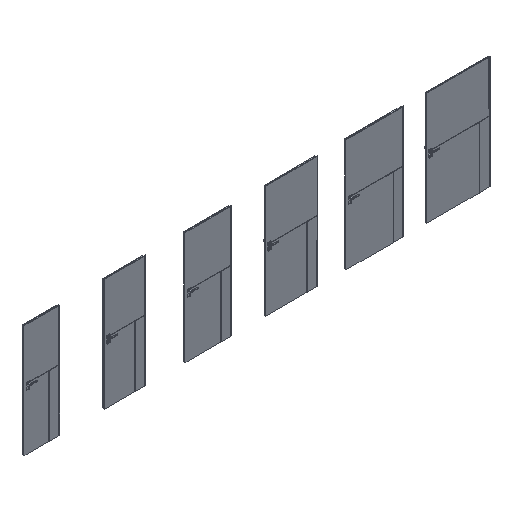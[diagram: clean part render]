
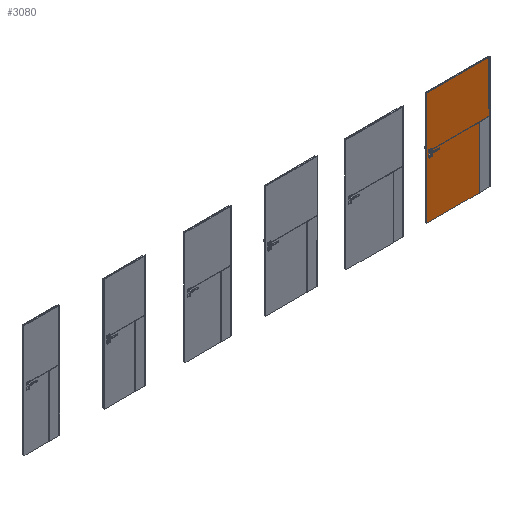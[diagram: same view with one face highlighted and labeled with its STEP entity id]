
A CAD part, isometric view. The second image highlights one B-rep face of the part: STEP entity #3080.
In plain terms, the highlighted planar face has unit normal (0, -1, 0).
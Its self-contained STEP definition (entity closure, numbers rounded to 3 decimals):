
#3080=ADVANCED_FACE('',(#5036),#4076,.F.);
#4076=PLANE('',#22065);
#5036=FACE_OUTER_BOUND('',#6344,.T.);
#6344=EDGE_LOOP('',(#10199,#10200,#10201,#10202,#10203,#10204,#10205,#10206));
#10199=ORIENTED_EDGE('',*,*,#16160,.T.);
#10200=ORIENTED_EDGE('',*,*,#16161,.T.);
#10201=ORIENTED_EDGE('',*,*,#16162,.F.);
#10202=ORIENTED_EDGE('',*,*,#16163,.F.);
#10203=ORIENTED_EDGE('',*,*,#16164,.T.);
#10204=ORIENTED_EDGE('',*,*,#16153,.T.);
#10205=ORIENTED_EDGE('',*,*,#16165,.T.);
#10206=ORIENTED_EDGE('',*,*,#16166,.T.);
#13775=VERTEX_POINT('',#35949);
#13776=VERTEX_POINT('',#35951);
#13782=VERTEX_POINT('',#35965);
#13783=VERTEX_POINT('',#35966);
#13784=VERTEX_POINT('',#35968);
#13785=VERTEX_POINT('',#35970);
#13786=VERTEX_POINT('',#35972);
#13787=VERTEX_POINT('',#35975);
#16153=EDGE_CURVE('',#13776,#13775,#18517,.T.);
#16160=EDGE_CURVE('',#13782,#13783,#18524,.T.);
#16161=EDGE_CURVE('',#13783,#13784,#18525,.T.);
#16162=EDGE_CURVE('',#13785,#13784,#18526,.T.);
#16163=EDGE_CURVE('',#13786,#13785,#18527,.T.);
#16164=EDGE_CURVE('',#13786,#13776,#18528,.T.);
#16165=EDGE_CURVE('',#13775,#13787,#18529,.T.);
#16166=EDGE_CURVE('',#13787,#13782,#18530,.T.);
#18517=LINE('',#35950,#20341);
#18524=LINE('',#35964,#20348);
#18525=LINE('',#35967,#20349);
#18526=LINE('',#35969,#20350);
#18527=LINE('',#35971,#20351);
#18528=LINE('',#35973,#20352);
#18529=LINE('',#35974,#20353);
#18530=LINE('',#35976,#20354);
#20341=VECTOR('',#25948,1.);
#20348=VECTOR('',#25957,1.);
#20349=VECTOR('',#25958,1.);
#20350=VECTOR('',#25959,1.);
#20351=VECTOR('',#25960,1.);
#20352=VECTOR('',#25961,1.);
#20353=VECTOR('',#25962,1.);
#20354=VECTOR('',#25963,1.);
#22065=AXIS2_PLACEMENT_3D('',#35977,#25964,#25965);
#25948=DIRECTION('',(1.,0.,0.));
#25957=DIRECTION('',(0.,0.,1.));
#25958=DIRECTION('',(1.,0.,0.));
#25959=DIRECTION('',(0.,0.,-1.));
#25960=DIRECTION('',(1.,0.,0.));
#25961=DIRECTION('',(0.,0.,-1.));
#25962=DIRECTION('',(0.,0.,1.));
#25963=DIRECTION('',(-1.,0.,0.));
#25964=DIRECTION('',(0.,1.,0.));
#25965=DIRECTION('',(-1.,0.,0.));
#35949=CARTESIAN_POINT('',(7876.,-39.3,0.));
#35950=CARTESIAN_POINT('',(7178.,-39.3,0.));
#35951=CARTESIAN_POINT('',(6928.,-39.3,0.));
#35964=CARTESIAN_POINT('',(6996.,-39.3,1101.));
#35965=CARTESIAN_POINT('',(6996.,-39.3,1101.));
#35966=CARTESIAN_POINT('',(6996.,-39.3,1107.));
#35967=CARTESIAN_POINT('',(6996.,-39.3,1107.));
#35968=CARTESIAN_POINT('',(8072.,-39.3,1107.));
#35969=CARTESIAN_POINT('',(8072.,-39.3,2030.));
#35970=CARTESIAN_POINT('',(8072.,-39.3,2030.));
#35971=CARTESIAN_POINT('',(7178.,-39.3,2030.));
#35972=CARTESIAN_POINT('',(6928.,-39.3,2030.));
#35973=CARTESIAN_POINT('',(6928.,-39.3,2030.));
#35974=CARTESIAN_POINT('',(7876.,-39.3,0.));
#35975=CARTESIAN_POINT('',(7876.,-39.3,1101.));
#35976=CARTESIAN_POINT('',(8072.,-39.3,1101.));
#35977=CARTESIAN_POINT('',(7178.,-39.3,2030.));
